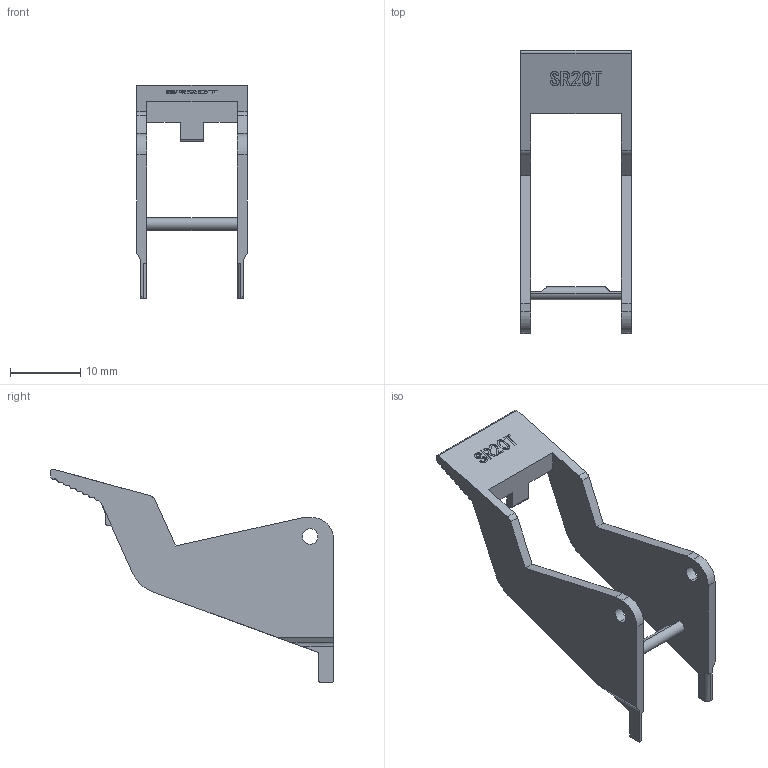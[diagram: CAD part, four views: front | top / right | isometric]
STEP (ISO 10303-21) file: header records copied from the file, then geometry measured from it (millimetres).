
FILE_DESCRIPTION (( 'STEP AP203' ), '1' );
FILE_NAME ('SR20T.STEP', '2019-11-26T01:52:53', ( '' ), ( '' ), 'SwSTEP 2.0', 'SolidWorks 2018', '' );
FILE_SCHEMA (( 'CONFIG_CONTROL_DESIGN' ));
Length unit declared in the file: millimetre
Products named in the file (1): SR20T
Bounding box: 15.7 x 40.17 x 30.35 mm (x, y, z)
Volume: 1510.8 mm3; surface area: 2469.3 mm2
Topology: 1 solids, 1 shells, 148 faces, 415 edges, 276 vertices
Faces by surface type: plane 77, cylinder 48, bspline 23
Entity records: 6792 total; most frequent: CARTESIAN_POINT 2967, ORIENTED_EDGE 830, DIRECTION 707, EDGE_CURVE 415, VERTEX_POINT 276, VECTOR 267, LINE 267, AXIS2_PLACEMENT_3D 220
